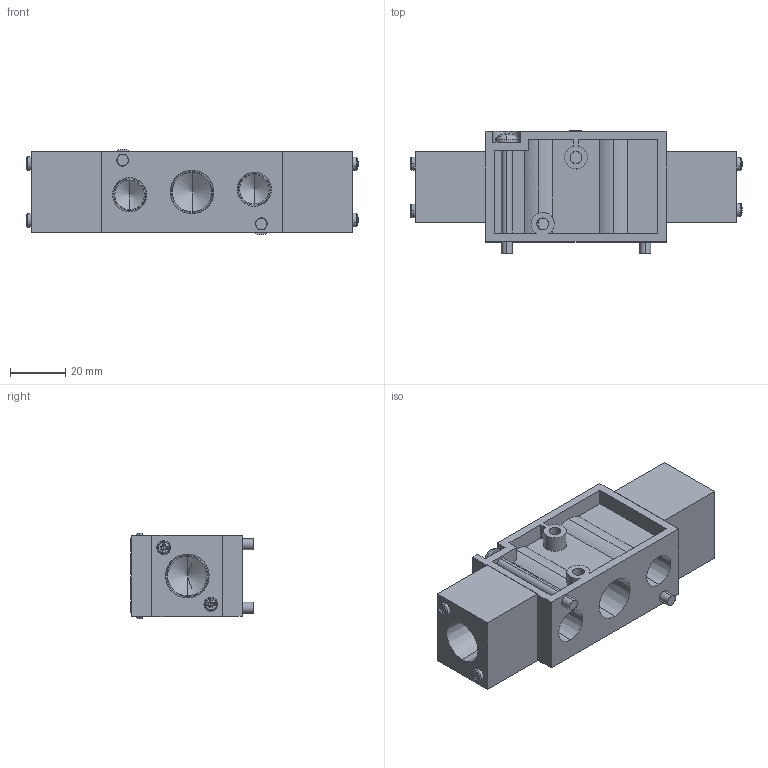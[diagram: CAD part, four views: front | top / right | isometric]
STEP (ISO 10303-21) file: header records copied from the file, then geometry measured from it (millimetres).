
FILE_DESCRIPTION (( 'STEP AP203' ), '1' );
FILE_NAME ('YCD2408-03.STEP', '2016-08-08T01:56:07', ( '' ), ( '' ), 'SwSTEP 2.0', 'SolidWorks 2014', '' );
FILE_SCHEMA (( 'CONFIG_CONTROL_DESIGN' ));
Length unit declared in the file: millimetre
Products named in the file (6): RC08-MARK_9; ISO 7045 - M4 x 40_9; YCS-2408-03; YCD2408-03; PC6-M3_62; RC08-1_9
Assembly tree (10 placements, depth 2):
  YCD2408-03
    RC08-1_9
    PC6-M3_62  x4
    RC08-MARK_9
    ISO 7045 - M4 x 40_9  x2
    YCS-2408-03  x2
Bounding box: 119.89 x 44.12 x 31 mm (x, y, z)
Volume: 82793.4 mm3; surface area: 29761.5 mm2
Topology: 16 solids, 16 shells, 412 faces, 1024 edges, 641 vertices
Faces by surface type: plane 220, cylinder 76, cone 72, bspline 44
Entity records: 8914 total; most frequent: CARTESIAN_POINT 1968, ORIENTED_EDGE 1288, DIRECTION 1264, EDGE_CURVE 644, AXIS2_PLACEMENT_3D 444, VERTEX_POINT 420, LINE 376, VECTOR 376
